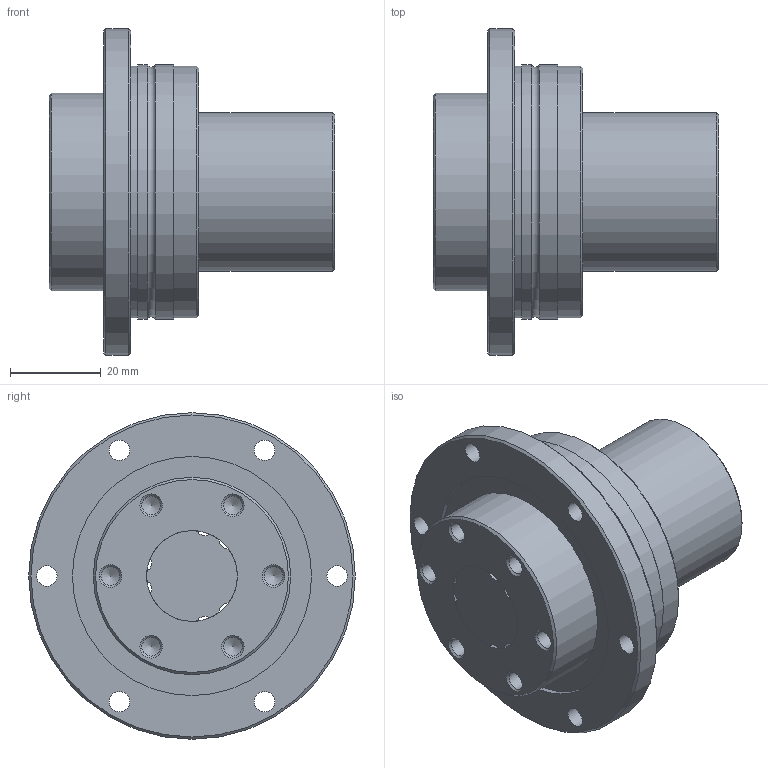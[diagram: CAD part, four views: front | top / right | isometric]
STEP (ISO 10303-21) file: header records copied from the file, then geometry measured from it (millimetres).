
FILE_DESCRIPTION(/* description */ ('STEP AP203'),/* implementation_level */ '2;1');
FILE_NAME(/* name */ 'LTR20A+63L(0_0)',/* time_stamp */ '2024-05-28T07:52:07+02:00',/* author */ ('License CC BY-ND 4.0'),/* organization */ ('CADENAS'),/* preprocessor_version */ 'ST-DEVELOPER v19.3',/* originating_system */ 'PARTsolutions',/* authorisation */ ' ');
FILE_SCHEMA (('CONFIG_CONTROL_DESIGN'));
Length unit declared in the file: millimetre
Products named in the file (3): LTR20A+63L(0,0); LTR 20A63 LTRA Shaft; LTR 20A LTRA ACyl
Assembly tree (3 placements, depth 2):
  LTR20A+63L(0,0)
    LTR 20A63 LTRA Shaft
    LTR 20A LTRA ACyl  x2
Bounding box: 63 x 72 x 72 mm (x, y, z)
Volume: 188042.3 mm3; surface area: 49503.2 mm2
Topology: 3 solids, 3 shells, 120 faces, 278 edges, 182 vertices
Faces by surface type: cylinder 60, cone 34, plane 24, torus 2
Full cylindrical faces by diameter (mm): 1.5 x2, 4.134 x12, 4.5 x12, 20 x2, 35 x2, 42 x2, 43.5 x2, 50.4 x2, 52.727 x2, 55.4 x2, 55.5 x2, 56 x4, 72 x2
Entity records: 1710 total; most frequent: DIRECTION 318, CARTESIAN_POINT 269, ORIENTED_EDGE 190, AXIS2_PLACEMENT_3D 153, FACE_BOUND 138, EDGE_LOOP 132, EDGE_CURVE 95, VERTEX_POINT 89
